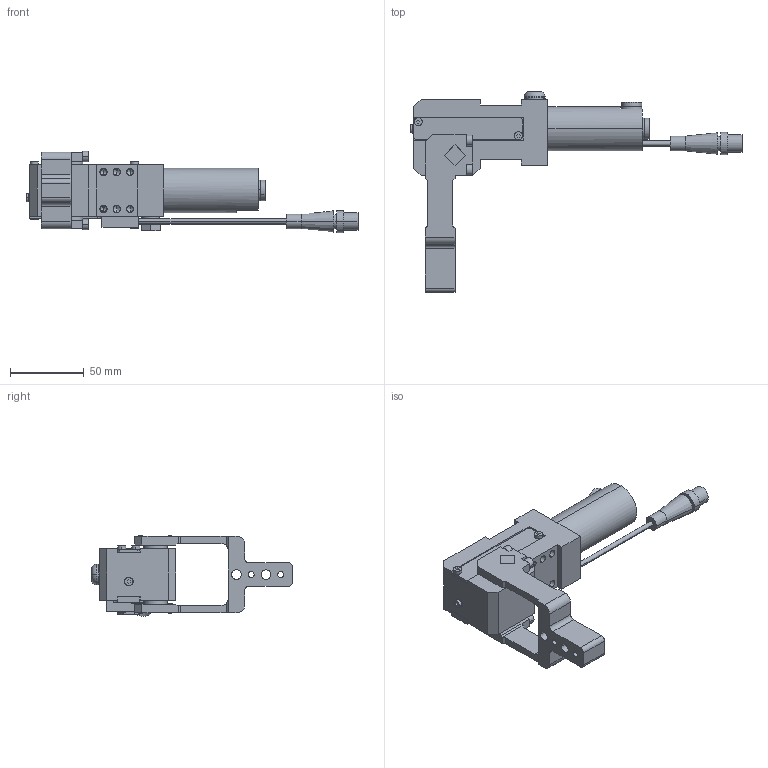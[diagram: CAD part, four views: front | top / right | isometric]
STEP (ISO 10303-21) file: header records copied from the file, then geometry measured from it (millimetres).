
FILE_DESCRIPTION (( 'STEP AP214' ), '1' );
FILE_NAME ('c25vci_.STEP', '2014-03-17T08:50:05', ( 'vep' ), ( 'TOSHIBA' ), 'SwSTEP 2.0', 'SolidWorks 2013', '' );
FILE_SCHEMA (( 'AUTOMOTIVE_DESIGN' ));
Length unit declared in the file: millimetre
Products named in the file (9): vite_m8x8_iso7380; leva_centrale_cpr25; nipplo_cpr25; finecorsa_cpr25; gruppo_montante_cpr25; riparo_G20; tappo G1_8 din908; rondella_di_tenuta_G1_8; c25vci_
Assembly tree (10 placements, depth 2):
  c25vci_
    gruppo_montante_cpr25
    nipplo_cpr25
    vite_m8x8_iso7380
    rondella_di_tenuta_G1_8  x2
    tappo G1_8 din908  x2
    riparo_G20
    finecorsa_cpr25
    leva_centrale_cpr25
Bounding box: 225 x 136.2 x 55 mm (x, y, z)
Volume: 239154.5 mm3; surface area: 61431.1 mm2
Topology: 10 solids, 10 shells, 496 faces, 1180 edges, 750 vertices
Faces by surface type: plane 286, cylinder 174, cone 34, torus 2
Entity records: 14873 total; most frequent: DIRECTION 2440, CARTESIAN_POINT 2329, ORIENTED_EDGE 2212, EDGE_CURVE 1106, AXIS2_PLACEMENT_3D 849, LINE 742, VECTOR 742, VERTEX_POINT 722
